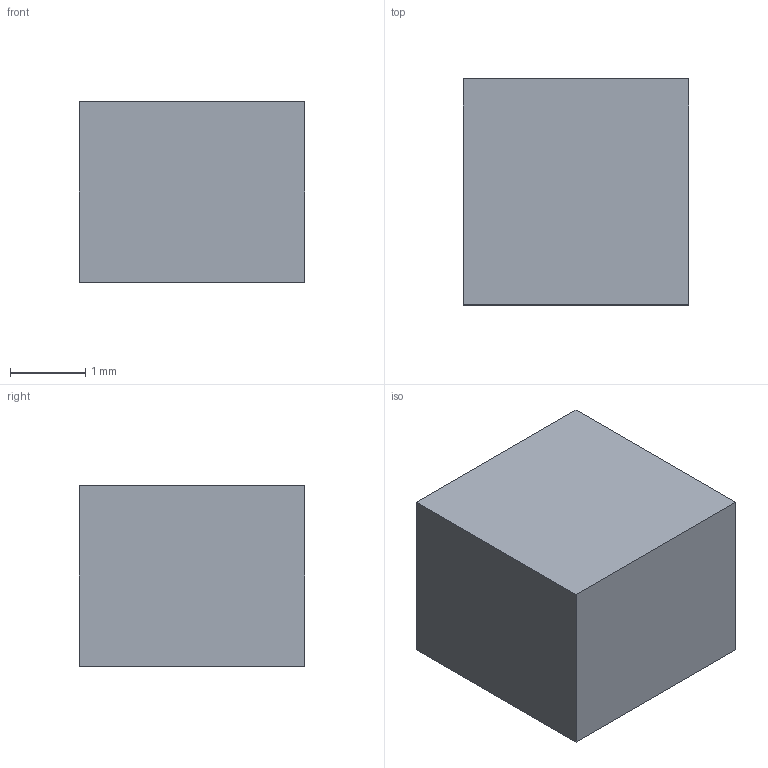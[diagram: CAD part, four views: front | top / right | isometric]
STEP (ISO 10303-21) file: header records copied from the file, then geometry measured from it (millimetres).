
FILE_DESCRIPTION(('Open CASCADE Model'),'2;1');
FILE_NAME('Open CASCADE Shape Model','2026-10-17T17:22:13',('Author'),( 'Open CASCADE'),'Open CASCADE STEP processor 7.9','Open CASCADE 7.9' ,'Unknown');
FILE_SCHEMA(('AUTOMOTIVE_DESIGN { 1 0 10303 214 1 1 1 1 }'));
Length unit declared in the file: millimetre
Products named in the file (1): Open CASCADE STEP translator 7.9 22
Bounding box: 3 x 3 x 2.4 mm (x, y, z)
Volume: 21.6 mm3; surface area: 46.8 mm2
Topology: 1 solids, 1 shells, 6 faces, 12 edges, 8 vertices
Faces by surface type: plane 6
Entity records: 322 total; most frequent: CARTESIAN_POINT 51, DIRECTION 50, LINE 36, VECTOR 36, ORIENTED_EDGE 24, PCURVE 24, DEFINITIONAL_REPRESENTATION 24, EDGE_CURVE 12
